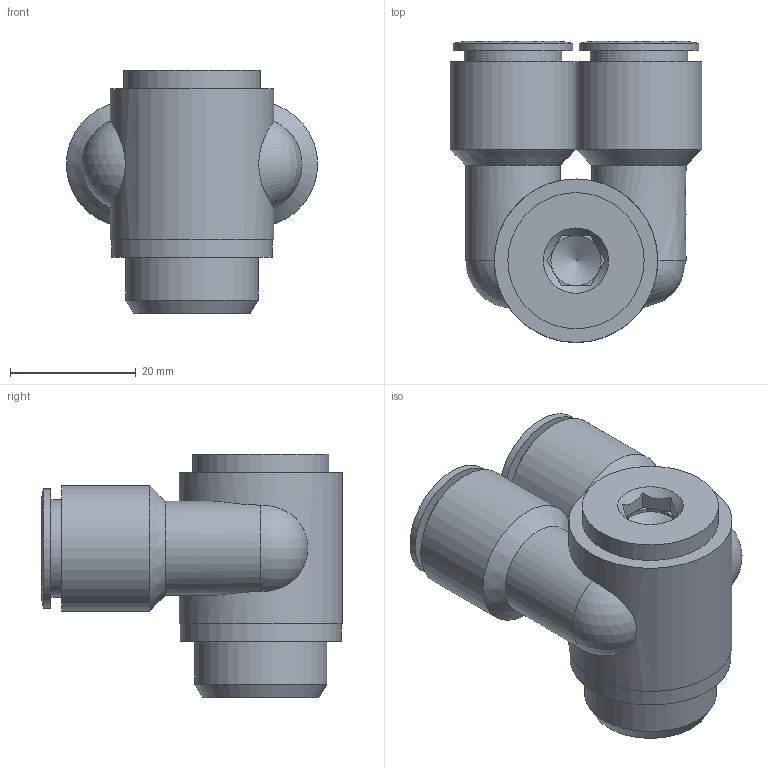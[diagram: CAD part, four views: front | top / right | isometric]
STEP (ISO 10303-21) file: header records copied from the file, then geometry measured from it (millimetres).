
FILE_DESCRIPTION((''),'2;1');
FILE_NAME('C:\Documents and Settings\rivolro1\Documenti\copia di Raccordi\PLASTICA\T15BXXXX\T15B1212.stp','2007-10-31T08:03:11',('Rivolro1'),(''),'Autodesk Inventor 2008','Autodesk Inventor 2008','');
FILE_SCHEMA(('AUTOMOTIVE_DESIGN { 1 0 10303 214 1 1 1 1 }'));
Length unit declared in the file: millimetre
Products named in the file (1): T15B1212
Bounding box: 40 x 47.9 x 38.8 mm (x, y, z)
Volume: 25464.8 mm3; surface area: 10640.7 mm2
Topology: 1 solids, 1 shells, 57 faces, 116 edges, 72 vertices
Faces by surface type: bspline 22, plane 20, cylinder 11, cone 3, sphere 1
Full cylindrical faces by diameter (mm): 10.3 x1, 15 x1, 15.5 x1, 19 x1, 20 x1, 21 x1, 21.667 x1, 25.6 x1, 26 x1
Entity records: 1927 total; most frequent: CARTESIAN_POINT 887, DIRECTION 184, ORIENTED_EDGE 170, EDGE_LOOP 92, EDGE_CURVE 85, AXIS2_PLACEMENT_3D 81, VERTEX_POINT 63, FACE_OUTER_BOUND 57
